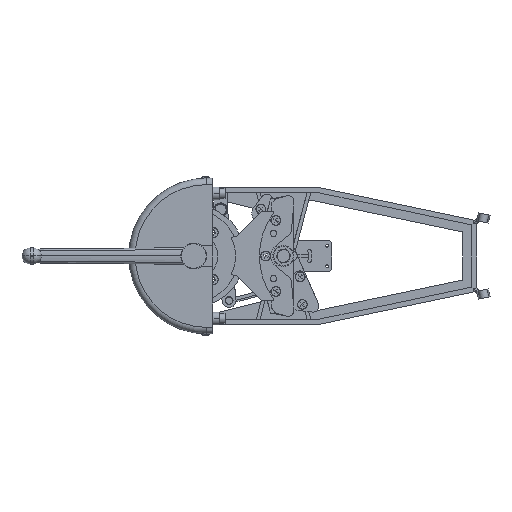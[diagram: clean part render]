
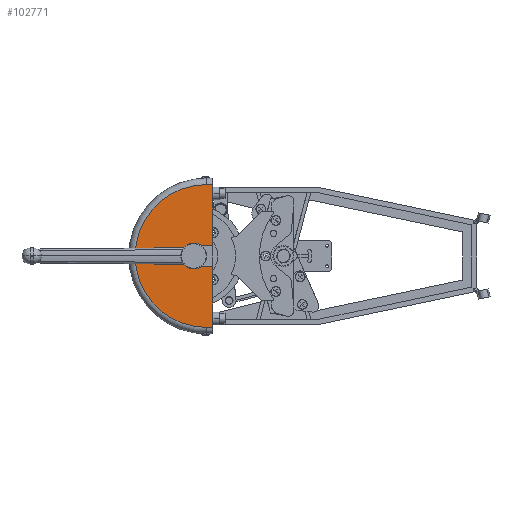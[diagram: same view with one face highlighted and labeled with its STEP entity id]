
A CAD part, left-side view. The second image highlights one B-rep face of the part: STEP entity #102771.
In plain terms, the highlighted planar face has unit normal (-1, 0, 0).
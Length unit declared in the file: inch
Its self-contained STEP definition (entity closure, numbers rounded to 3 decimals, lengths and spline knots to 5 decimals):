
#1326 = EDGE_CURVE ( 'NONE', #59334, #101758, #41089, .T. ) ;
#1569 = ORIENTED_EDGE ( 'NONE', *, *, #39274, .F. ) ;
#2512 = CARTESIAN_POINT ( 'NONE',  ( -2.335, 0.25, 2.78 ) ) ;
#5760 = AXIS2_PLACEMENT_3D ( 'NONE', #33892, #8280, #102509 ) ;
#5930 = CARTESIAN_POINT ( 'NONE',  ( -2.335, 0.75, -0.407 ) ) ;
#5970 = CARTESIAN_POINT ( 'NONE',  ( -2.335, 0., 0.407 ) ) ;
#8280 = DIRECTION ( 'NONE',  ( -1., 0., 0. ) ) ;
#12012 = LINE ( 'NONE', #63132, #67634 ) ;
#13417 = VECTOR ( 'NONE', #50175, 39.37008 ) ;
#14699 = VECTOR ( 'NONE', #19088, 39.37008 ) ;
#14845 = CIRCLE ( 'NONE', #5760, 2.78 ) ;
#19088 = DIRECTION ( 'NONE',  ( 0., -1., 0. ) ) ;
#22852 = PLANE ( 'NONE',  #102800 ) ;
#25727 = ORIENTED_EDGE ( 'NONE', *, *, #1326, .T. ) ;
#33123 = ORIENTED_EDGE ( 'NONE', *, *, #98672, .F. ) ;
#33892 = CARTESIAN_POINT ( 'NONE',  ( -2.335, 0.25, 0. ) ) ;
#38775 = EDGE_CURVE ( 'NONE', #101758, #78288, #12012, .T. ) ;
#39274 = EDGE_CURVE ( 'NONE', #60847, #64672, #69646, .T. ) ;
#40687 = CARTESIAN_POINT ( 'NONE',  ( -2.335, 0., -2.78 ) ) ;
#41089 = LINE ( 'NONE', #76796, #13417 ) ;
#43062 = ORIENTED_EDGE ( 'NONE', *, *, #68247, .T. ) ;
#43393 = ORIENTED_EDGE ( 'NONE', *, *, #38775, .T. ) ;
#43822 = CARTESIAN_POINT ( 'NONE',  ( -2.335, 0., -0.407 ) ) ;
#48061 = DIRECTION ( 'NONE',  ( 0., 0., 1. ) ) ;
#49916 = CARTESIAN_POINT ( 'NONE',  ( -2.335, 0.75, 0. ) ) ;
#50175 = DIRECTION ( 'NONE',  ( 0., 0., 1. ) ) ;
#51605 = CARTESIAN_POINT ( 'NONE',  ( -2.335, 0., 0.407 ) ) ;
#53721 = CARTESIAN_POINT ( 'NONE',  ( -2.335, 0.25, -2.78 ) ) ;
#54158 = EDGE_CURVE ( 'NONE', #59334, #60847, #111124, .T. ) ;
#55183 = ORIENTED_EDGE ( 'NONE', *, *, #70745, .T. ) ;
#55988 = LINE ( 'NONE', #101276, #64243 ) ;
#56457 = DIRECTION ( 'NONE',  ( 0., 0., -1. ) ) ;
#57243 = VERTEX_POINT ( 'NONE', #43822 ) ;
#59334 = VERTEX_POINT ( 'NONE', #5970 ) ;
#60847 = VERTEX_POINT ( 'NONE', #74924 ) ;
#62099 = CARTESIAN_POINT ( 'NONE',  ( -2.335, 0., 2.78 ) ) ;
#63132 = CARTESIAN_POINT ( 'NONE',  ( -2.335, 0.25, 2.78 ) ) ;
#63734 = VERTEX_POINT ( 'NONE', #53721 ) ;
#64243 = VECTOR ( 'NONE', #48061, 39.37008 ) ;
#64286 = ORIENTED_EDGE ( 'NONE', *, *, #111643, .T. ) ;
#64672 = VERTEX_POINT ( 'NONE', #96776 ) ;
#67179 = CARTESIAN_POINT ( 'NONE',  ( -2.335, 0.25, 0. ) ) ;
#67634 = VECTOR ( 'NONE', #79585, 39.37008 ) ;
#68247 = EDGE_CURVE ( 'NONE', #78288, #63734, #14845, .T. ) ;
#69171 = DIRECTION ( 'NONE',  ( -1., 0., 0. ) ) ;
#69646 = CIRCLE ( 'NONE', #85906, 0.407 ) ;
#69767 = ORIENTED_EDGE ( 'NONE', *, *, #54158, .F. ) ;
#70745 = EDGE_CURVE ( 'NONE', #81020, #57243, #55988, .T. ) ;
#74572 = FACE_OUTER_BOUND ( 'NONE', #110285, .T. ) ;
#74924 = CARTESIAN_POINT ( 'NONE',  ( -2.335, 0.75, 0.407 ) ) ;
#75614 = VECTOR ( 'NONE', #92996, 39.37008 ) ;
#76796 = CARTESIAN_POINT ( 'NONE',  ( -2.335, 0., -3.03 ) ) ;
#78288 = VERTEX_POINT ( 'NONE', #2512 ) ;
#79585 = DIRECTION ( 'NONE',  ( 0., 1., 0. ) ) ;
#81020 = VERTEX_POINT ( 'NONE', #40687 ) ;
#85906 = AXIS2_PLACEMENT_3D ( 'NONE', #49916, #69171, #93546 ) ;
#91577 = DIRECTION ( 'NONE',  ( 1., 0., 0. ) ) ;
#92996 = DIRECTION ( 'NONE',  ( 0., 1., 0. ) ) ;
#93546 = DIRECTION ( 'NONE',  ( 0., 0., -1. ) ) ;
#96211 = LINE ( 'NONE', #105289, #14699 ) ;
#96776 = CARTESIAN_POINT ( 'NONE',  ( -2.335, 0.75, -0.407 ) ) ;
#98294 = VECTOR ( 'NONE', #110901, 39.37008 ) ;
#98672 = EDGE_CURVE ( 'NONE', #64672, #57243, #101281, .T. ) ;
#101276 = CARTESIAN_POINT ( 'NONE',  ( -2.335, 0., -3.03 ) ) ;
#101281 = LINE ( 'NONE', #5930, #98294 ) ;
#101758 = VERTEX_POINT ( 'NONE', #62099 ) ;
#102509 = DIRECTION ( 'NONE',  ( 0., 0., -1. ) ) ;
#102771 = ADVANCED_FACE ( 'NONE', ( #74572 ), #22852, .F. ) ;
#102800 = AXIS2_PLACEMENT_3D ( 'NONE', #67179, #91577, #56457 ) ;
#105289 = CARTESIAN_POINT ( 'NONE',  ( -2.335, 0.25, -2.78 ) ) ;
#110285 = EDGE_LOOP ( 'NONE', ( #25727, #43393, #43062, #64286, #55183, #33123, #1569, #69767 ) ) ;
#110901 = DIRECTION ( 'NONE',  ( 0., -1., 0. ) ) ;
#111124 = LINE ( 'NONE', #51605, #75614 ) ;
#111643 = EDGE_CURVE ( 'NONE', #63734, #81020, #96211, .T. ) ;
